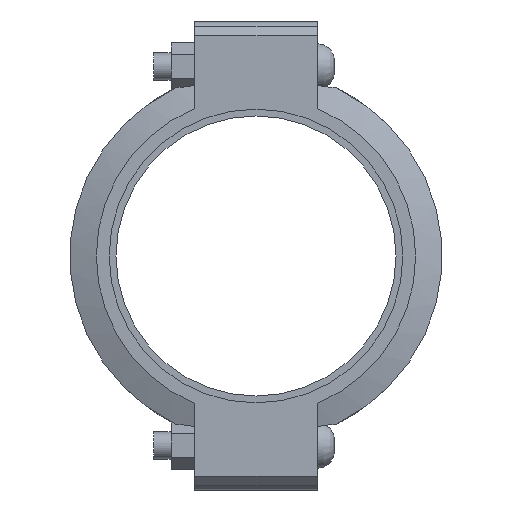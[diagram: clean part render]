
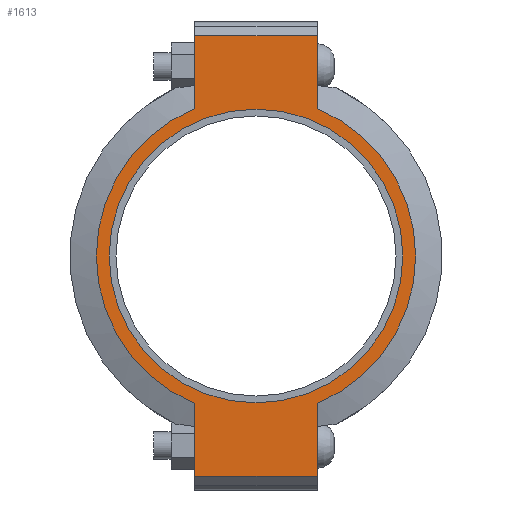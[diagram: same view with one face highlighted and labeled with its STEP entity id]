
A CAD part, left-side view. The second image highlights one B-rep face of the part: STEP entity #1613.
In plain terms, the highlighted planar face has unit normal (-1, 0, 0) as drawn and (0, 0, 1) by its records, which use the part's own axes.
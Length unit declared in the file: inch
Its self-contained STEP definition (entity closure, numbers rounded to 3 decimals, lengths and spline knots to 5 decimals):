
#184=LINE('',#2778,#273);
#195=LINE('',#2829,#284);
#201=LINE('',#2855,#290);
#203=LINE('',#2858,#292);
#204=LINE('',#2863,#293);
#205=LINE('',#2864,#294);
#273=VECTOR('',#2262,0.3937);
#284=VECTOR('',#2293,0.3937);
#290=VECTOR('',#2311,0.3937);
#292=VECTOR('',#2315,0.3937);
#293=VECTOR('',#2320,0.3937);
#294=VECTOR('',#2321,0.3937);
#356=FACE_BOUND('',#533,.T.);
#424=FACE_OUTER_BOUND('',#532,.T.);
#532=EDGE_LOOP('',(#1308,#1309,#1310,#1311,#1312,#1313,#1314,#1315));
#533=EDGE_LOOP('',(#1316));
#615=CIRCLE('',#1832,5.375);
#639=CIRCLE('',#1884,5.845);
#640=CIRCLE('',#1885,5.845);
#711=VERTEX_POINT('',#2604);
#752=VERTEX_POINT('',#2775);
#753=VERTEX_POINT('',#2777);
#770=VERTEX_POINT('',#2824);
#771=VERTEX_POINT('',#2828);
#778=VERTEX_POINT('',#2850);
#779=VERTEX_POINT('',#2854);
#780=VERTEX_POINT('',#2860);
#781=VERTEX_POINT('',#2862);
#875=EDGE_CURVE('',#711,#711,#615,.T.);
#932=EDGE_CURVE('',#753,#752,#184,.T.);
#953=EDGE_CURVE('',#771,#770,#195,.T.);
#964=EDGE_CURVE('',#779,#778,#201,.T.);
#966=EDGE_CURVE('',#779,#752,#203,.T.);
#967=EDGE_CURVE('',#778,#780,#639,.T.);
#968=EDGE_CURVE('',#780,#781,#204,.T.);
#969=EDGE_CURVE('',#771,#781,#205,.T.);
#970=EDGE_CURVE('',#770,#753,#640,.T.);
#1308=ORIENTED_EDGE('',*,*,#966,.F.);
#1309=ORIENTED_EDGE('',*,*,#964,.T.);
#1310=ORIENTED_EDGE('',*,*,#967,.T.);
#1311=ORIENTED_EDGE('',*,*,#968,.T.);
#1312=ORIENTED_EDGE('',*,*,#969,.F.);
#1313=ORIENTED_EDGE('',*,*,#953,.T.);
#1314=ORIENTED_EDGE('',*,*,#970,.T.);
#1315=ORIENTED_EDGE('',*,*,#932,.T.);
#1316=ORIENTED_EDGE('',*,*,#875,.T.);
#1453=PLANE('',#1883);
#1613=ADVANCED_FACE('',(#424,#356),#1453,.T.);
#1832=AXIS2_PLACEMENT_3D('',#2606,#2152,#2153);
#1883=AXIS2_PLACEMENT_3D('',#2859,#2316,#2317);
#1884=AXIS2_PLACEMENT_3D('',#2861,#2318,#2319);
#1885=AXIS2_PLACEMENT_3D('',#2865,#2322,#2323);
#2152=DIRECTION('center_axis',(0.,0.,-1.));
#2153=DIRECTION('ref_axis',(-1.,0.,0.));
#2262=DIRECTION('',(-1.,0.,0.));
#2293=DIRECTION('',(-1.,0.,0.));
#2311=DIRECTION('',(1.,0.,0.));
#2315=DIRECTION('',(0.,1.,0.));
#2316=DIRECTION('center_axis',(0.,0.,1.));
#2317=DIRECTION('ref_axis',(1.,0.,0.));
#2318=DIRECTION('center_axis',(0.,0.,1.));
#2319=DIRECTION('ref_axis',(-1.,0.,0.));
#2320=DIRECTION('',(1.,0.,0.));
#2321=DIRECTION('',(0.,-1.,0.));
#2322=DIRECTION('center_axis',(0.,0.,1.));
#2323=DIRECTION('ref_axis',(-1.,0.,0.));
#2604=CARTESIAN_POINT('',(5.375,0.,1.315));
#2606=CARTESIAN_POINT('Origin',(0.,0.,1.315));
#2775=CARTESIAN_POINT('',(-8.065,2.25,1.315));
#2777=CARTESIAN_POINT('',(-5.39458,2.25,1.315));
#2778=CARTESIAN_POINT('',(8.565,2.25,1.315));
#2824=CARTESIAN_POINT('',(5.39458,2.25,1.315));
#2828=CARTESIAN_POINT('',(8.065,2.25,1.315));
#2829=CARTESIAN_POINT('',(8.565,2.25,1.315));
#2850=CARTESIAN_POINT('',(-5.39458,-2.25,1.315));
#2854=CARTESIAN_POINT('',(-8.065,-2.25,1.315));
#2855=CARTESIAN_POINT('',(-8.565,-2.25,1.315));
#2858=CARTESIAN_POINT('',(-8.065,1.125,1.315));
#2859=CARTESIAN_POINT('Origin',(0.,0.,
1.315));
#2860=CARTESIAN_POINT('',(5.39458,-2.25,1.315));
#2861=CARTESIAN_POINT('Origin',(0.,0.,1.315));
#2862=CARTESIAN_POINT('',(8.065,-2.25,1.315));
#2863=CARTESIAN_POINT('',(-8.565,-2.25,1.315));
#2864=CARTESIAN_POINT('',(8.065,-1.125,1.315));
#2865=CARTESIAN_POINT('Origin',(0.,0.,1.315));
